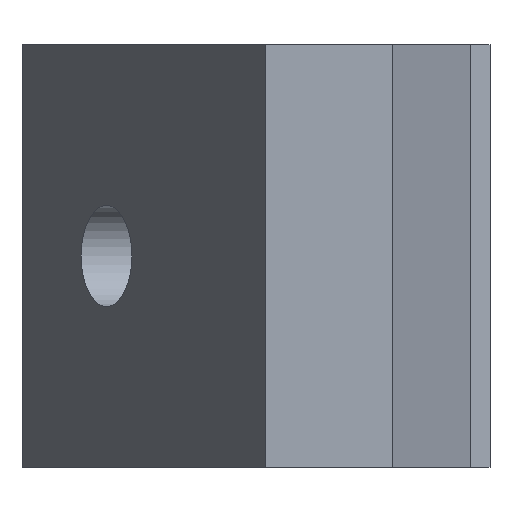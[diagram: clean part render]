
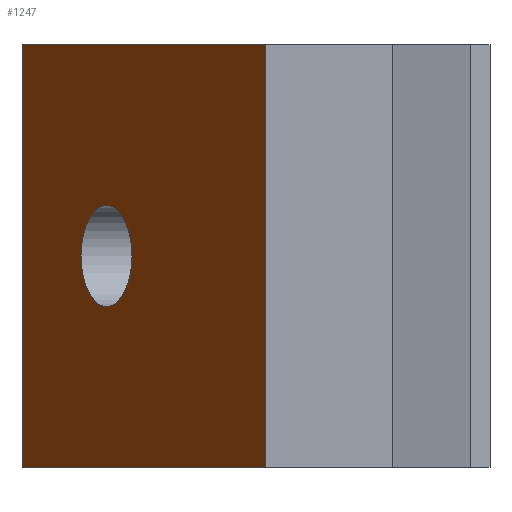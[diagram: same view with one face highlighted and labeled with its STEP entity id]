
A CAD part, left-side view. The second image highlights one B-rep face of the part: STEP entity #1247.
In plain terms, the highlighted planar face has unit normal (-0.5, 0.866, 0).
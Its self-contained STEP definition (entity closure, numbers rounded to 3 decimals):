
#17=CIRCLE('',#1297,1.2);
#20=FACE_BOUND('',#131,.T.);
#70=FACE_OUTER_BOUND('',#130,.T.);
#130=EDGE_LOOP('',(#1030,#1031,#1032,#1033));
#131=EDGE_LOOP('',(#1034));
#252=LINE('',#1837,#427);
#263=LINE('',#1861,#438);
#294=LINE('',#1922,#469);
#295=LINE('',#1923,#470);
#427=VECTOR('',#1500,10.);
#438=VECTOR('',#1521,10.);
#469=VECTOR('',#1572,10.);
#470=VECTOR('',#1573,10.);
#568=VERTEX_POINT('',#1834);
#569=VERTEX_POINT('',#1836);
#575=VERTEX_POINT('',#1852);
#576=VERTEX_POINT('',#1859);
#577=VERTEX_POINT('',#1860);
#721=EDGE_CURVE('',#569,#568,#252,.T.);
#729=EDGE_CURVE('',#575,#575,#17,.T.);
#733=EDGE_CURVE('',#576,#577,#263,.T.);
#764=EDGE_CURVE('',#576,#568,#294,.T.);
#765=EDGE_CURVE('',#577,#569,#295,.T.);
#1030=ORIENTED_EDGE('',*,*,#764,.F.);
#1031=ORIENTED_EDGE('',*,*,#733,.T.);
#1032=ORIENTED_EDGE('',*,*,#765,.T.);
#1033=ORIENTED_EDGE('',*,*,#721,.T.);
#1034=ORIENTED_EDGE('',*,*,#729,.T.);
#1189=PLANE('',#1309);
#1247=ADVANCED_FACE('',(#70,#20),#1189,.T.);
#1297=AXIS2_PLACEMENT_3D('',#1853,#1512,#1513);
#1309=AXIS2_PLACEMENT_3D('',#1921,#1570,#1571);
#1500=DIRECTION('',(0.,0.,-1.));
#1512=DIRECTION('center_axis',(0.5,-0.866,0.));
#1513=DIRECTION('ref_axis',(0.,0.,1.));
#1521=DIRECTION('',(0.,0.,1.));
#1570=DIRECTION('center_axis',(-0.5,0.866,0.));
#1571=DIRECTION('ref_axis',(-0.866,-0.5,0.));
#1572=DIRECTION('',(0.866,0.5,0.));
#1573=DIRECTION('',(0.866,0.5,0.));
#1834=CARTESIAN_POINT('',(5.,8.774,0.));
#1836=CARTESIAN_POINT('',(5.,8.774,10.));
#1837=CARTESIAN_POINT('',(5.,8.774,2.5));
#1852=CARTESIAN_POINT('',(1.536,6.774,3.8));
#1853=CARTESIAN_POINT('Origin',(1.536,6.774,5.));
#1859=CARTESIAN_POINT('',(-5.,3.,0.));
#1860=CARTESIAN_POINT('',(-5.,3.,10.));
#1861=CARTESIAN_POINT('',(-5.,3.,7.5));
#1921=CARTESIAN_POINT('Origin',(1.279,6.625,0.));
#1922=CARTESIAN_POINT('',(-0.56,5.563,0.));
#1923=CARTESIAN_POINT('',(-0.56,5.563,10.));
